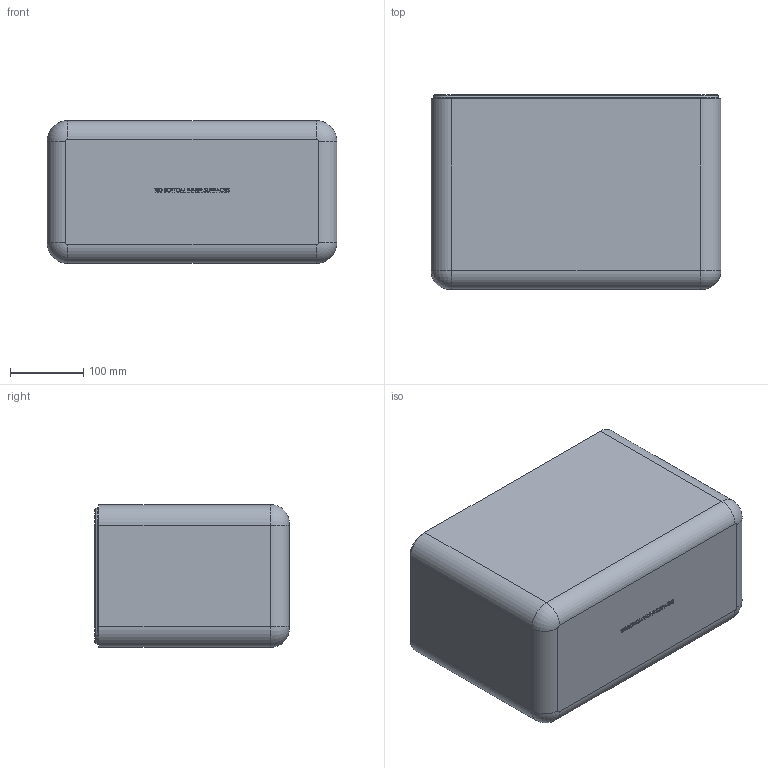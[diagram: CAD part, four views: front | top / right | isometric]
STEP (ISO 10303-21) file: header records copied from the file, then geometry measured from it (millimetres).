
FILE_DESCRIPTION (( 'STEP AP203' ), '1' );
FILE_NAME ('T30_BOTTOM_INNER SURF.STEP', '2024-05-21T14:11:57', ( '' ), ( '' ), 'SwSTEP 2.0', 'SolidWorks 2022', '' );
FILE_SCHEMA (( 'CONFIG_CONTROL_DESIGN' ));
Products named in the file (1): T30_BOTTOM_INNER SURF
Bounding box: 396.63 x 266.06 x 195.46 mm (x, y, z)
Volume: 6250675.7 mm3; surface area: 707729 mm2
Topology: 1 solids, 1 shells, 1417 faces, 3409 edges, 2020 vertices
Faces by surface type: bspline 490, plane 377, cylinder 260, torus 176, cone 102, sphere 12
Entity records: 67238 total; most frequent: CARTESIAN_POINT 38161, ORIENTED_EDGE 6770, DIRECTION 5150, EDGE_CURVE 3385, VERTEX_POINT 2020, AXIS2_PLACEMENT_3D 1930, EDGE_LOOP 1467, ADVANCED_FACE 1417
